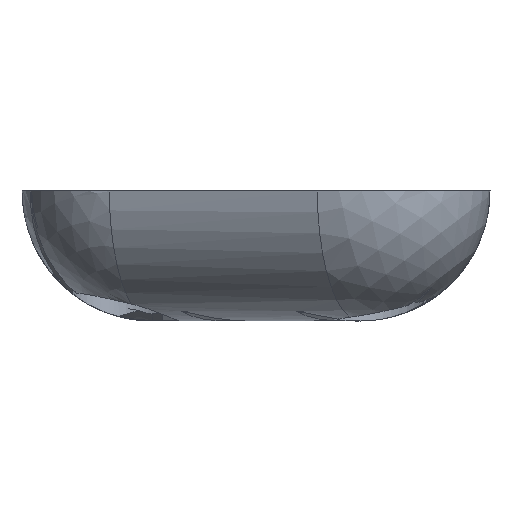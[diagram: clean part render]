
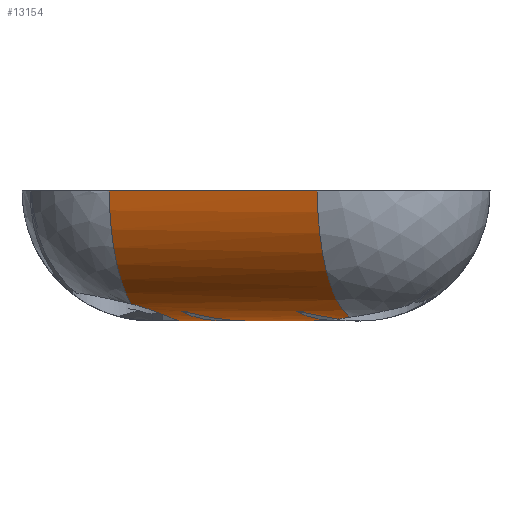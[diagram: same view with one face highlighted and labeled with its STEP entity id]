
A CAD part, front view. The second image highlights one B-rep face of the part: STEP entity #13154.
In plain terms, the highlighted cylindrical face has radius 20 mm (diameter 40 mm), a partial arc.
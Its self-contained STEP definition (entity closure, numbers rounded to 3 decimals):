
#459=DIRECTION('',(-0.945,0.328,0.));
#460=VECTOR('',#459,33.874);
#461=CARTESIAN_POINT('',(-113.56,-118.587,-776.));
#462=LINE('',#461,#460);
#1745=CARTESIAN_POINT('',(-139.,-88.582,-776.));
#1746=DIRECTION('',(0.945,-0.328,0.));
#1747=DIRECTION('',(-0.328,-0.945,0.));
#1748=AXIS2_PLACEMENT_3D('',#1745,#1746,#1747);
#1750=CARTESIAN_POINT('',(-142.259,-97.97,
-793.357));
#1773=CARTESIAN_POINT('',(-111.274,-99.796,-795.944));
#1774=CARTESIAN_POINT('',(-111.272,-99.794,
-795.944));
#1775=CARTESIAN_POINT('',(-111.266,-99.791,
-795.944));
#1776=CARTESIAN_POINT('',(-111.258,-99.786,
-795.944));
#1777=CARTESIAN_POINT('',(-111.252,-99.784,
-795.945));
#1778=CARTESIAN_POINT('',(-111.249,-99.782,
-795.945));
#1780=CARTESIAN_POINT('',(-134.756,-90.056,-796.));
#1781=CARTESIAN_POINT('',(-134.775,-90.588,-796.));
#1782=CARTESIAN_POINT('',(-134.914,-91.645,
-795.963));
#1783=CARTESIAN_POINT('',(-135.474,-93.276,
-795.755));
#1784=CARTESIAN_POINT('',(-136.337,-94.71,
-795.41));
#1785=CARTESIAN_POINT('',(-137.473,-95.957,
-794.948));
#1786=CARTESIAN_POINT('',(-138.873,-96.967,
-794.401));
#1787=CARTESIAN_POINT('',(-140.477,-97.673,
-793.837));
#1788=CARTESIAN_POINT('',(-141.644,-97.914,
-793.502));
#1789=CARTESIAN_POINT('',(-142.259,-97.97,
-793.357));
#1791=CARTESIAN_POINT('',(-108.571,-104.218,
-795.418));
#1792=CARTESIAN_POINT('',(-108.804,-104.005,
-795.449));
#1793=CARTESIAN_POINT('',(-109.242,-103.555,
-795.516));
#1794=CARTESIAN_POINT('',(-109.822,-102.804,
-795.626));
#1795=CARTESIAN_POINT('',(-110.147,-102.266,
-795.699));
#1796=CARTESIAN_POINT('',(-110.295,-101.986,
-795.735));
#1798=CARTESIAN_POINT('',(-116.767,-104.346,-794.5));
#1799=CARTESIAN_POINT('',(-114.589,-103.686,
-795.05));
#1800=CARTESIAN_POINT('',(-112.43,-102.912,
-795.476));
#1801=CARTESIAN_POINT('',(-110.295,-101.986,
-795.735));
#1851=CARTESIAN_POINT('',(-107.,-99.693,-776.));
#1852=DIRECTION('',(-0.945,0.328,0.));
#1853=DIRECTION('',(-0.079,-0.226,-0.971));
#1854=AXIS2_PLACEMENT_3D('',#1851,#1852,#1853);
#7452=DIRECTION('',(0.945,-0.328,0.));
#7453=VECTOR('',#7452,8.018);
#7454=CARTESIAN_POINT('',(-134.756,-90.056,-796.));
#7455=LINE('',#7454,#7453);
#7488=CARTESIAN_POINT('',(-127.181,-92.686,-796.));
#7489=CARTESIAN_POINT('',(-127.78,-93.019,-796.));
#7490=CARTESIAN_POINT('',(-128.385,-93.337,
-795.981));
#7491=CARTESIAN_POINT('',(-128.997,-93.642,-795.944));
#7497=CARTESIAN_POINT('',(-128.997,-93.642,-795.944));
#7498=CARTESIAN_POINT('',(-131.095,-94.958,
-795.799));
#7499=CARTESIAN_POINT('',(-132.981,-96.434,
-795.386));
#7500=CARTESIAN_POINT('',(-134.49,-98.193,-794.5));
#7506=CARTESIAN_POINT('',(-134.49,-98.193,-794.5));
#7507=CARTESIAN_POINT('',(-130.867,-97.094,
-795.414));
#7508=CARTESIAN_POINT('',(-127.323,-95.711,
-796.));
#7509=CARTESIAN_POINT('',(-123.918,-93.819,-796.));
#7519=DIRECTION('',(0.945,-0.328,0.));
#7520=VECTOR('',#7519,5.182);
#7521=CARTESIAN_POINT('',(-123.918,-93.819,-796.));
#7522=LINE('',#7521,#7520);
#7523=CARTESIAN_POINT('',(-119.022,-95.519,
-796.));
#7524=CARTESIAN_POINT('',(-118.161,-95.997,
-796.));
#7525=CARTESIAN_POINT('',(-116.437,-96.951,
-795.996));
#7526=CARTESIAN_POINT('',(-113.846,-98.372,
-795.977));
#7527=CARTESIAN_POINT('',(-112.116,-99.313,
-795.957));
#7528=CARTESIAN_POINT('',(-111.249,-99.782,
-795.945));
#7543=CARTESIAN_POINT('',(-111.274,-99.796,-795.944));
#7544=CARTESIAN_POINT('',(-113.372,-101.112,
-795.799));
#7545=CARTESIAN_POINT('',(-115.257,-102.588,
-795.386));
#7546=CARTESIAN_POINT('',(-116.767,-104.346,-794.5));
#9030=CARTESIAN_POINT('',(-113.56,-118.587,-776.));
#9031=VERTEX_POINT('',#9030);
#9032=CARTESIAN_POINT('',(-145.56,-107.476,-776.));
#9033=VERTEX_POINT('',#9032);
#9165=VERTEX_POINT('',#1750);
#9166=VERTEX_POINT('',#1780);
#9185=CARTESIAN_POINT('',(-127.181,-92.686,-796.));
#9186=VERTEX_POINT('',#9185);
#9189=VERTEX_POINT('',#1798);
#9190=VERTEX_POINT('',#1801);
#9191=VERTEX_POINT('',#7543);
#9192=VERTEX_POINT('',#1778);
#9193=VERTEX_POINT('',#7523);
#9194=CARTESIAN_POINT('',(-123.918,-93.819,-796.));
#9195=VERTEX_POINT('',#9194);
#9196=VERTEX_POINT('',#7506);
#9197=VERTEX_POINT('',#7497);
#9198=CARTESIAN_POINT('',(-108.571,-104.218,
-795.418));
#9199=VERTEX_POINT('',#9198);
#13121=CARTESIAN_POINT('',(-116.44,-96.416,-776.));
#13122=DIRECTION('',(0.945,-0.328,0.));
#13123=DIRECTION('',(-0.328,-0.945,0.));
#13124=AXIS2_PLACEMENT_3D('',#13121,#13122,#13123);
#13125=CYLINDRICAL_SURFACE('',#13124,20.);
#13127=ORIENTED_EDGE('',*,*,#13126,.F.);
#13129=ORIENTED_EDGE('',*,*,#13128,.F.);
#13131=ORIENTED_EDGE('',*,*,#13130,.T.);
#13133=ORIENTED_EDGE('',*,*,#13132,.F.);
#13135=ORIENTED_EDGE('',*,*,#13134,.F.);
#13137=ORIENTED_EDGE('',*,*,#13136,.F.);
#13139=ORIENTED_EDGE('',*,*,#13138,.F.);
#13141=ORIENTED_EDGE('',*,*,#13140,.F.);
#13143=ORIENTED_EDGE('',*,*,#13142,.F.);
#13145=ORIENTED_EDGE('',*,*,#13144,.T.);
#13146=ORIENTED_EDGE('',*,*,#13109,.F.);
#13147=ORIENTED_EDGE('',*,*,#10638,.F.);
#13149=ORIENTED_EDGE('',*,*,#13148,.F.);
#13151=ORIENTED_EDGE('',*,*,#13150,.T.);
#13152=EDGE_LOOP('',(#13127,#13129,#13131,#13133,#13135,#13137,#13139,#13141,
#13143,#13145,#13146,#13147,#13149,#13151));
#13153=FACE_OUTER_BOUND('',#13152,.F.);
#13154=ADVANCED_FACE('',(#13153),#13125,.T.);
#1749=CIRCLE('',#1748,20.);
#1779=B_SPLINE_CURVE_WITH_KNOTS('',3,(#1773,#1774,#1775,#1776,#1777,#1778),
.UNSPECIFIED.,.F.,.F.,(4,1,1,4),(0.,0.333,0.667,1.),
.UNSPECIFIED.);
#1790=B_SPLINE_CURVE_WITH_KNOTS('',3,(#1780,#1781,#1782,#1783,#1784,#1785,#1786,
#1787,#1788,#1789),.UNSPECIFIED.,.F.,.F.,(4,1,1,1,1,1,1,4),(0.,
0.143,0.286,0.429,0.571,
0.714,0.857,1.),.UNSPECIFIED.);
#1797=B_SPLINE_CURVE_WITH_KNOTS('',3,(#1791,#1792,#1793,#1794,#1795,#1796),
.UNSPECIFIED.,.F.,.F.,(4,1,1,4),(0.,0.333,0.667,1.),
.UNSPECIFIED.);
#1802=B_SPLINE_CURVE_WITH_KNOTS('',3,(#1798,#1799,#1800,#1801),.UNSPECIFIED.,
.F.,.F.,(4,4),(0.,1.),.UNSPECIFIED.);
#1855=CIRCLE('',#1854,20.);
#7492=B_SPLINE_CURVE_WITH_KNOTS('',3,(#7488,#7489,#7490,#7491),.UNSPECIFIED.,
.F.,.F.,(4,4),(0.,1.),.UNSPECIFIED.);
#7501=B_SPLINE_CURVE_WITH_KNOTS('',3,(#7497,#7498,#7499,#7500),.UNSPECIFIED.,
.F.,.F.,(4,4),(0.,1.),.UNSPECIFIED.);
#7510=B_SPLINE_CURVE_WITH_KNOTS('',3,(#7506,#7507,#7508,#7509),.UNSPECIFIED.,
.F.,.F.,(4,4),(0.,1.),.UNSPECIFIED.);
#7529=B_SPLINE_CURVE_WITH_KNOTS('',3,(#7523,#7524,#7525,#7526,#7527,#7528),
.UNSPECIFIED.,.F.,.F.,(4,1,1,4),(0.,0.333,0.667,1.),
.UNSPECIFIED.);
#7547=B_SPLINE_CURVE_WITH_KNOTS('',3,(#7543,#7544,#7545,#7546),.UNSPECIFIED.,
.F.,.F.,(4,4),(0.,1.),.UNSPECIFIED.);
#10638=EDGE_CURVE('',#9031,#9033,#462,.T.);
#13109=EDGE_CURVE('',#9033,#9165,#1749,.T.);
#13126=EDGE_CURVE('',#9189,#9190,#1802,.T.);
#13128=EDGE_CURVE('',#9191,#9189,#7547,.T.);
#13130=EDGE_CURVE('',#9191,#9192,#1779,.T.);
#13132=EDGE_CURVE('',#9193,#9192,#7529,.T.);
#13134=EDGE_CURVE('',#9195,#9193,#7522,.T.);
#13136=EDGE_CURVE('',#9196,#9195,#7510,.T.);
#13138=EDGE_CURVE('',#9197,#9196,#7501,.T.);
#13140=EDGE_CURVE('',#9186,#9197,#7492,.T.);
#13142=EDGE_CURVE('',#9166,#9186,#7455,.T.);
#13144=EDGE_CURVE('',#9166,#9165,#1790,.T.);
#13148=EDGE_CURVE('',#9199,#9031,#1855,.T.);
#13150=EDGE_CURVE('',#9199,#9190,#1797,.T.);
